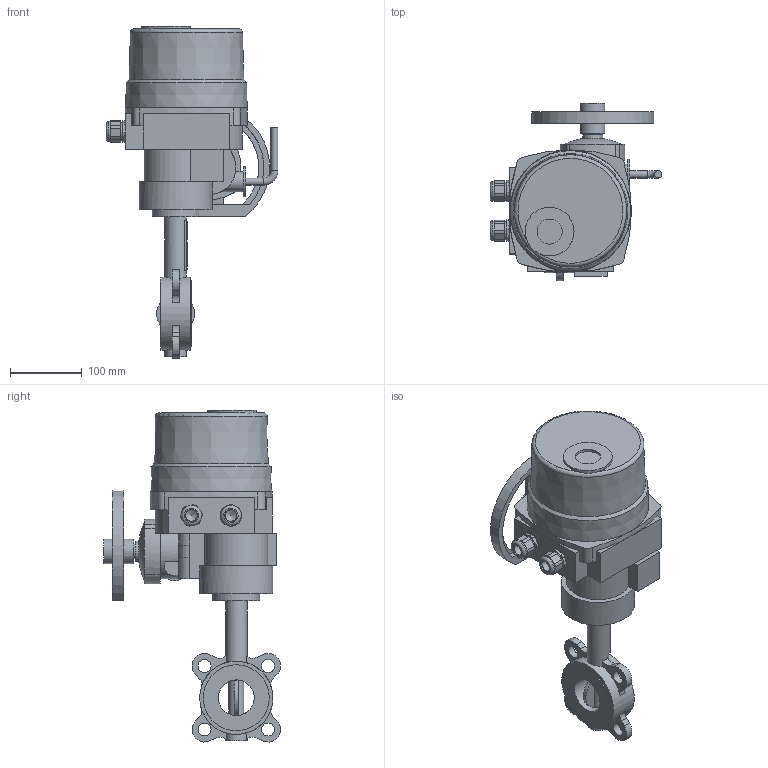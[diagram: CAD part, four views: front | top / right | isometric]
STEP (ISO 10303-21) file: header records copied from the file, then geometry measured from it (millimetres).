
FILE_DESCRIPTION(('STEP AP203'), '1');
FILE_NAME('青蜮铕 015WDN50+菹 QT5-1', '', ('UNSPECIFIED'), ('UNSPECIFIED'), 'ASCON STEP Converter 1.6', 'ASCON Math Kernel', '');
FILE_SCHEMA(('CONFIG_CONTROL_DESIGN'));
Length unit declared in the file: millimetre
Bounding box: 239.5 x 246.63 x 462.63 mm (x, y, z)
Volume: 5072498.8 mm3; surface area: 332675.3 mm2
Topology: 2 solids, 3 shells, 794 faces, 2252 edges, 1446 vertices
Faces by surface type: cylinder 509, plane 270, cone 9, torus 5, bspline 1
Full cylindrical faces by diameter (mm): 4.917 x4, 8 x4, 10 x2, 12.6 x1, 16 x2, 17 x2, 18 x4, 20 x1, 21 x1, 22.835 x2, 25 x2, 28 x3, 28.026 x1, 30 x2, 34 x2, 35 x2, 40 x1, 42 x1, 50 x1, 65 x1, 68 x1, 92 x2, 102 x2
Entity records: 33504 total; most frequent: CARTESIAN_POINT 5743, DIRECTION 4844, ORIENTED_EDGE 4315, EDGE_CURVE 2189, AXIS2_PLACEMENT_3D 1896, VERTEX_POINT 1440, CIRCLE 1102, LINE 1052
